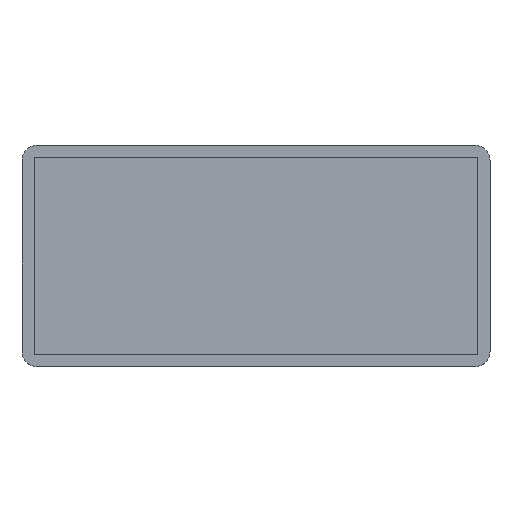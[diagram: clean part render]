
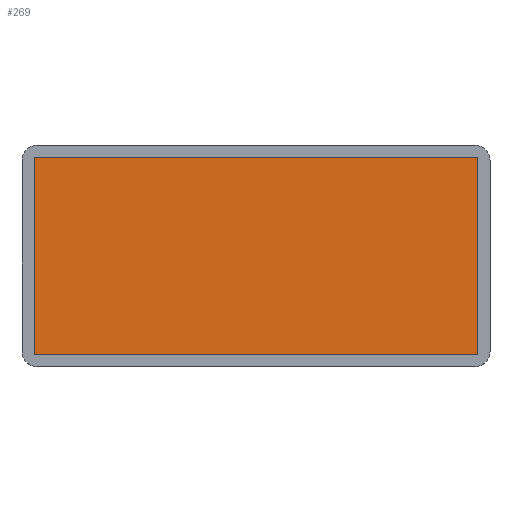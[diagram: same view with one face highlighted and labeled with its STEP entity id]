
A CAD part, top view. The second image highlights one B-rep face of the part: STEP entity #269.
In plain terms, the highlighted planar face has unit normal (0, 0, 1).
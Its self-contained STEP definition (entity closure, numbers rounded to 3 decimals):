
#23=PLANE('',#306);
#38=FACE_OUTER_BOUND('',#53,.T.);
#53=EDGE_LOOP('',(#230,#231,#232,#233));
#74=LINE('',#439,#102);
#78=LINE('',#446,#106);
#81=LINE('',#452,#109);
#83=LINE('',#455,#111);
#102=VECTOR('',#360,10.);
#106=VECTOR('',#366,10.);
#109=VECTOR('',#371,10.);
#111=VECTOR('',#375,10.);
#140=VERTEX_POINT('',#436);
#141=VERTEX_POINT('',#438);
#143=VERTEX_POINT('',#444);
#145=VERTEX_POINT('',#450);
#170=EDGE_CURVE('',#140,#141,#74,.T.);
#174=EDGE_CURVE('',#143,#140,#78,.T.);
#177=EDGE_CURVE('',#145,#143,#81,.T.);
#179=EDGE_CURVE('',#141,#145,#83,.T.);
#230=ORIENTED_EDGE('',*,*,#179,.F.);
#231=ORIENTED_EDGE('',*,*,#170,.F.);
#232=ORIENTED_EDGE('',*,*,#174,.F.);
#233=ORIENTED_EDGE('',*,*,#177,.F.);
#269=ADVANCED_FACE('',(#38),#23,.F.);
#306=AXIS2_PLACEMENT_3D('',#456,#376,#377);
#360=DIRECTION('',(-1.,0.,0.));
#366=DIRECTION('',(0.,-1.,0.));
#371=DIRECTION('',(1.,0.,0.));
#375=DIRECTION('',(0.,1.,0.));
#376=DIRECTION('center_axis',(0.,0.,-1.));
#377=DIRECTION('ref_axis',(-1.,0.,0.));
#436=CARTESIAN_POINT('',(72.,0.,-4.));
#438=CARTESIAN_POINT('',(0.,0.,-4.));
#439=CARTESIAN_POINT('',(0.,0.,-4.));
#444=CARTESIAN_POINT('',(72.,32.,-4.));
#446=CARTESIAN_POINT('',(72.,0.,-4.));
#450=CARTESIAN_POINT('',(0.,32.,-4.));
#452=CARTESIAN_POINT('',(72.,32.,-4.));
#455=CARTESIAN_POINT('',(0.,32.,-4.));
#456=CARTESIAN_POINT('Origin',(36.,16.,-4.));
